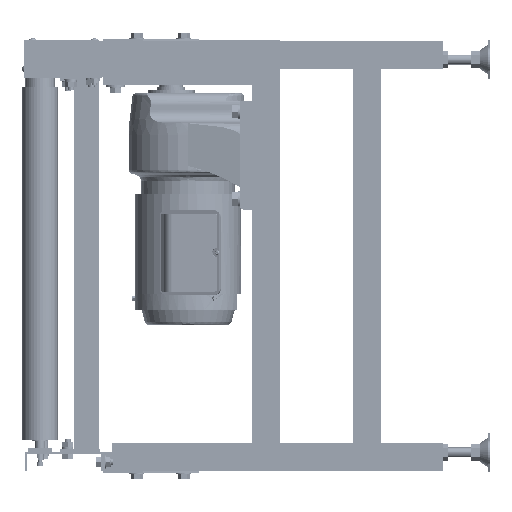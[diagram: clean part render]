
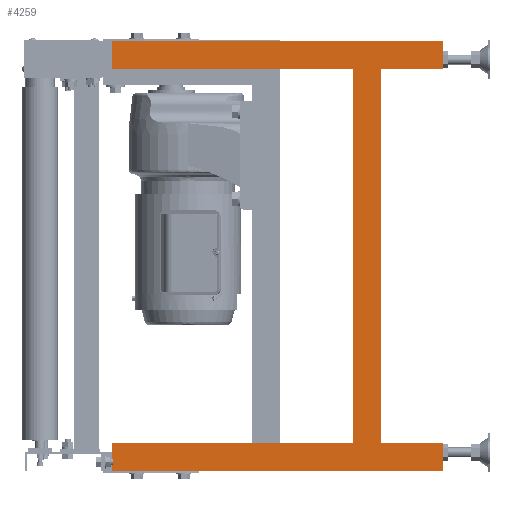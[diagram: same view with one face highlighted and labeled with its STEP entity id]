
A CAD part, left-side view. The second image highlights one B-rep face of the part: STEP entity #4259.
In plain terms, the highlighted planar face has unit normal (-1, 0, 0).
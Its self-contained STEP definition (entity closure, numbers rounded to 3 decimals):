
#4259=ADVANCED_FACE('',(#38446),#38445,.T.);
#38445=PLANE('',#62668);
#38446=FACE_OUTER_BOUND('',#62669,.T.);
#62665=CARTESIAN_POINT('',(62.5,-685.,-355.));
#62666=DIRECTION('',(-1.,0.,0.));
#62667=DIRECTION('',(0.,0.,1.));
#62668=AXIS2_PLACEMENT_3D('',#62665,#62666,#62667);
#62669=EDGE_LOOP('',(#82572,#82573,#82574,#82575,#82576,#82577,#82578,#82579,#82580,#82581,#82582,#82583,#82584,#82585,#82586,#82587,#82588,#82589));
#82572=ORIENTED_EDGE('',*,*,#94024,.T.);
#82573=ORIENTED_EDGE('',*,*,#94106,.T.);
#82574=ORIENTED_EDGE('',*,*,#94107,.F.);
#82575=ORIENTED_EDGE('',*,*,#94108,.T.);
#82576=ORIENTED_EDGE('',*,*,#94100,.T.);
#82577=ORIENTED_EDGE('',*,*,#94097,.F.);
#82578=ORIENTED_EDGE('',*,*,#93908,.T.);
#82579=ORIENTED_EDGE('',*,*,#94109,.T.);
#82580=ORIENTED_EDGE('',*,*,#93918,.T.);
#82581=ORIENTED_EDGE('',*,*,#94110,.T.);
#82582=ORIENTED_EDGE('',*,*,#94102,.T.);
#82583=ORIENTED_EDGE('',*,*,#94111,.T.);
#82584=ORIENTED_EDGE('',*,*,#94112,.F.);
#82585=ORIENTED_EDGE('',*,*,#94113,.F.);
#82586=ORIENTED_EDGE('',*,*,#94114,.F.);
#82587=ORIENTED_EDGE('',*,*,#94115,.T.);
#82588=ORIENTED_EDGE('',*,*,#94027,.T.);
#82589=ORIENTED_EDGE('',*,*,#94116,.T.);
#93908=EDGE_CURVE('',#148242,#148243,#148244,.T.);
#93918=EDGE_CURVE('',#148312,#148305,#148313,.T.);
#94024=EDGE_CURVE('',#149015,#149008,#149016,.T.);
#94027=EDGE_CURVE('',#148994,#149029,#149036,.T.);
#94097=EDGE_CURVE('',#148242,#149428,#149498,.T.);
#94100=EDGE_CURVE('',#149505,#149428,#149518,.T.);
#94102=EDGE_CURVE('',#149532,#149524,#149533,.T.);
#94106=EDGE_CURVE('',#149008,#149559,#149560,.T.);
#94107=EDGE_CURVE('',#149566,#149559,#149567,.T.);
#94108=EDGE_CURVE('',#149566,#149505,#149573,.T.);
#94109=EDGE_CURVE('',#148243,#148312,#149579,.T.);
#94110=EDGE_CURVE('',#148305,#149532,#149585,.T.);
#94111=EDGE_CURVE('',#149524,#149591,#149592,.T.);
#94112=EDGE_CURVE('',#149598,#149591,#149599,.T.);
#94113=EDGE_CURVE('',#149605,#149598,#149606,.T.);
#94114=EDGE_CURVE('',#149612,#149605,#149613,.T.);
#94115=EDGE_CURVE('',#149612,#148994,#149619,.T.);
#94116=EDGE_CURVE('',#149029,#149015,#149625,.T.);
#148242=VERTEX_POINT('',#192234);
#148243=VERTEX_POINT('',#192235);
#148244=LINE('',#192236,#192237);
#148305=VERTEX_POINT('',#192272);
#148312=VERTEX_POINT('',#192276);
#148313=LINE('',#192277,#192278);
#148994=VERTEX_POINT('',#192682);
#149008=VERTEX_POINT('',#192690);
#149015=VERTEX_POINT('',#192694);
#149016=LINE('',#192695,#192696);
#149029=VERTEX_POINT('',#192703);
#149036=LINE('',#192708,#192709);
#149428=VERTEX_POINT('',#192931);
#149498=LINE('',#192971,#192972);
#149505=VERTEX_POINT('',#192975);
#149518=LINE('',#192982,#192983);
#149524=VERTEX_POINT('',#192985);
#149532=VERTEX_POINT('',#192990);
#149533=LINE('',#192991,#192992);
#149559=VERTEX_POINT('',#193006);
#149560=LINE('',#193007,#193008);
#149566=VERTEX_POINT('',#193010);
#149567=LINE('',#193011,#193012);
#149573=LINE('',#193014,#193015);
#149579=LINE('',#193017,#193018);
#149585=LINE('',#193020,#193021);
#149591=VERTEX_POINT('',#193023);
#149592=LINE('',#193024,#193025);
#149598=VERTEX_POINT('',#193027);
#149599=LINE('',#193028,#193029);
#149605=VERTEX_POINT('',#193031);
#149606=LINE('',#193032,#193033);
#149612=VERTEX_POINT('',#193035);
#149613=LINE('',#193036,#193037);
#149619=LINE('',#193039,#193040);
#149625=LINE('',#193042,#193043);
#192234=CARTESIAN_POINT('',(62.5,-144.,-345.));
#192235=CARTESIAN_POINT('',(62.5,-187.768,-345.));
#192236=CARTESIAN_POINT('',(62.5,-144.,-345.));
#192237=VECTOR('',#192238,43.768);
#192238=DIRECTION('',(0.,-1.,0.));
#192272=CARTESIAN_POINT('',(62.5,-284.,-345.));
#192276=CARTESIAN_POINT('',(62.5,-199.548,-345.));
#192277=CARTESIAN_POINT('',(62.5,-199.548,-345.));
#192278=VECTOR('',#192279,84.452);
#192279=DIRECTION('',(0.,-1.,0.));
#192682=CARTESIAN_POINT('',(62.5,-284.,345.));
#192690=CARTESIAN_POINT('',(62.5,-144.,345.));
#192694=CARTESIAN_POINT('',(62.5,-187.768,345.));
#192695=CARTESIAN_POINT('',(62.5,-187.768,345.));
#192696=VECTOR('',#192697,43.768);
#192697=DIRECTION('',(0.,1.,0.));
#192703=CARTESIAN_POINT('',(62.5,-199.548,345.));
#192708=CARTESIAN_POINT('',(62.5,-284.,345.));
#192709=VECTOR('',#192710,84.452);
#192710=DIRECTION('',(0.,1.,0.));
#192931=CARTESIAN_POINT('',(62.5,-144.,-300.));
#192971=CARTESIAN_POINT('',(62.5,-144.,-345.));
#192972=VECTOR('',#192973,45.);
#192973=DIRECTION('',(0.,0.,1.));
#192975=CARTESIAN_POINT('',(62.5,-530.,-300.));
#192982=CARTESIAN_POINT('',(62.5,-530.,-300.));
#192983=VECTOR('',#192984,386.);
#192984=DIRECTION('',(0.,1.,0.));
#192985=CARTESIAN_POINT('',(62.5,-675.,-300.));
#192990=CARTESIAN_POINT('',(62.5,-675.,-345.));
#192991=CARTESIAN_POINT('',(62.5,-675.,-345.));
#192992=VECTOR('',#192993,45.);
#192993=DIRECTION('',(0.,0.,1.));
#193006=CARTESIAN_POINT('',(62.5,-144.,300.));
#193007=CARTESIAN_POINT('',(62.5,-144.,345.));
#193008=VECTOR('',#193009,45.);
#193009=DIRECTION('',(0.,0.,-1.));
#193010=CARTESIAN_POINT('',(62.5,-530.,300.));
#193011=CARTESIAN_POINT('',(62.5,-530.,300.));
#193012=VECTOR('',#193013,386.);
#193013=DIRECTION('',(0.,1.,0.));
#193014=CARTESIAN_POINT('',(62.5,-530.,300.));
#193015=VECTOR('',#193016,600.);
#193016=DIRECTION('',(0.,0.,-1.));
#193017=CARTESIAN_POINT('',(62.5,-187.768,-345.));
#193018=VECTOR('',#193019,11.78);
#193019=DIRECTION('',(0.,-1.,0.));
#193020=CARTESIAN_POINT('',(62.5,-284.,-345.));
#193021=VECTOR('',#193022,391.);
#193022=DIRECTION('',(0.,-1.,0.));
#193023=CARTESIAN_POINT('',(62.5,-575.,-300.));
#193024=CARTESIAN_POINT('',(62.5,-675.,-300.));
#193025=VECTOR('',#193026,100.);
#193026=DIRECTION('',(0.,1.,0.));
#193027=CARTESIAN_POINT('',(62.5,-575.,300.));
#193028=CARTESIAN_POINT('',(62.5,-575.,300.));
#193029=VECTOR('',#193030,600.);
#193030=DIRECTION('',(0.,0.,-1.));
#193031=CARTESIAN_POINT('',(62.5,-675.,300.));
#193032=CARTESIAN_POINT('',(62.5,-675.,300.));
#193033=VECTOR('',#193034,100.);
#193034=DIRECTION('',(0.,1.,0.));
#193035=CARTESIAN_POINT('',(62.5,-675.,345.));
#193036=CARTESIAN_POINT('',(62.5,-675.,345.));
#193037=VECTOR('',#193038,45.);
#193038=DIRECTION('',(0.,0.,-1.));
#193039=CARTESIAN_POINT('',(62.5,-675.,345.));
#193040=VECTOR('',#193041,391.);
#193041=DIRECTION('',(0.,1.,0.));
#193042=CARTESIAN_POINT('',(62.5,-199.548,345.));
#193043=VECTOR('',#193044,11.78);
#193044=DIRECTION('',(0.,1.,0.));
